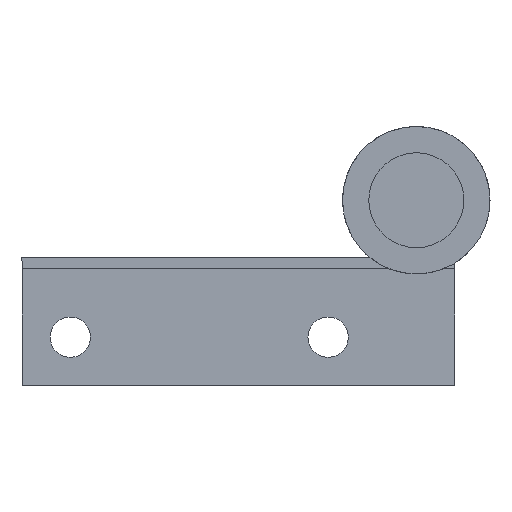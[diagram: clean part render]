
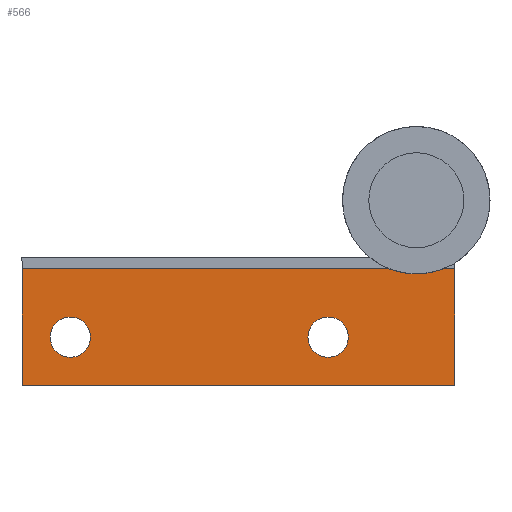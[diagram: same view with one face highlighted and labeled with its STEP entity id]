
A CAD part, front view. The second image highlights one B-rep face of the part: STEP entity #566.
In plain terms, the highlighted planar face has unit normal (0, -1, 0).
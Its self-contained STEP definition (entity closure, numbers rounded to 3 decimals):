
#5 = EDGE_CURVE ( 'NONE', #499, #500, #922, .T. ) ;
#17 = AXIS2_PLACEMENT_3D ( 'NONE', #124, #125, #126 ) ;
#33 = EDGE_CURVE ( 'NONE', #536, #529, #884, .T. ) ;
#35 = AXIS2_PLACEMENT_3D ( 'NONE', #254, #255, #256 ) ;
#49 = EDGE_CURVE ( 'NONE', #546, #527, #1043, .T. ) ;
#58 = AXIS2_PLACEMENT_3D ( 'NONE', #381, #389, #390 ) ;
#94 = AXIS2_PLACEMENT_3D ( 'NONE', #448, #465, #466 ) ;
#97 = AXIS2_PLACEMENT_3D ( 'NONE', #557, #108, #109 ) ;
#108 = DIRECTION ( 'NONE',  ( 0., 1., 0. ) ) ;
#109 = DIRECTION ( 'NONE',  ( 1., 0., 0. ) ) ;
#124 = CARTESIAN_POINT ( 'NONE',  ( -42.95, 533.2, -17. ) ) ;
#125 = DIRECTION ( 'NONE',  ( 0., 1., 0. ) ) ;
#126 = DIRECTION ( 'NONE',  ( 1., 0., 0. ) ) ;
#179 = CARTESIAN_POINT ( 'NONE',  ( 4.75, 533.2, -23. ) ) ;
#180 = CARTESIAN_POINT ( 'NONE',  ( 4.75, 533.2, -8.5 ) ) ;
#185 = CARTESIAN_POINT ( 'NONE',  ( -48.95, 533.2, -8.5 ) ) ;
#186 = CARTESIAN_POINT ( 'NONE',  ( -48.95, 533.2, -23. ) ) ;
#212 = CARTESIAN_POINT ( 'NONE',  ( -40.45, 533.2, -17. ) ) ;
#214 = CARTESIAN_POINT ( 'NONE',  ( -8.45, 533.2, -17. ) ) ;
#221 = CARTESIAN_POINT ( 'NONE',  ( -13.45, 533.2, -17. ) ) ;
#231 = CARTESIAN_POINT ( 'NONE',  ( -45.45, 533.2, -17. ) ) ;
#250 = PLANE ( 'NONE',  #35 ) ;
#254 = CARTESIAN_POINT ( 'NONE',  ( 9.15, 533.2, -23. ) ) ;
#255 = DIRECTION ( 'NONE',  ( 0., 1., 0. ) ) ;
#256 = DIRECTION ( 'NONE',  ( 1., 0., 0. ) ) ;
#368 = CARTESIAN_POINT ( 'NONE',  ( 4.75, 533.2, -23. ) ) ;
#369 = DIRECTION ( 'NONE',  ( 0., 0., -1. ) ) ;
#381 = CARTESIAN_POINT ( 'NONE',  ( -42.95, 533.2, -17. ) ) ;
#389 = DIRECTION ( 'NONE',  ( 0., 1., 0. ) ) ;
#390 = DIRECTION ( 'NONE',  ( 1., 0., 0. ) ) ;
#391 = CARTESIAN_POINT ( 'NONE',  ( 9.15, 533.2, -8.5 ) ) ;
#392 = DIRECTION ( 'NONE',  ( -1., 0., 0. ) ) ;
#448 = CARTESIAN_POINT ( 'NONE',  ( -10.95, 533.2, -17. ) ) ;
#465 = DIRECTION ( 'NONE',  ( 0., 1., 0. ) ) ;
#466 = DIRECTION ( 'NONE',  ( 1., 0., 0. ) ) ;
#467 = CARTESIAN_POINT ( 'NONE',  ( 9.15, 533.2, -23. ) ) ;
#468 = DIRECTION ( 'NONE',  ( -1., 0., 0. ) ) ;
#494 = DIRECTION ( 'NONE',  ( 0., 0., -1. ) ) ;
#495 = VERTEX_POINT ( 'NONE', #179 ) ;
#496 = VERTEX_POINT ( 'NONE', #180 ) ;
#499 = VERTEX_POINT ( 'NONE', #185 ) ;
#500 = VERTEX_POINT ( 'NONE', #186 ) ;
#527 = VERTEX_POINT ( 'NONE', #212 ) ;
#529 = VERTEX_POINT ( 'NONE', #214 ) ;
#536 = VERTEX_POINT ( 'NONE', #221 ) ;
#546 = VERTEX_POINT ( 'NONE', #231 ) ;
#551 = CARTESIAN_POINT ( 'NONE',  ( -48.95, 533.2, -23. ) ) ;
#557 = CARTESIAN_POINT ( 'NONE',  ( -10.95, 533.2, -17. ) ) ;
#566 = ADVANCED_FACE ( 'NONE', ( #666, #669, #667 ), #250, .F. ) ;
#602 = EDGE_CURVE ( 'NONE', #496, #495, #728, .T. ) ;
#610 = EDGE_CURVE ( 'NONE', #527, #546, #683, .T. ) ;
#611 = EDGE_CURVE ( 'NONE', #496, #499, #706, .T. ) ;
#644 = EDGE_CURVE ( 'NONE', #529, #536, #819, .T. ) ;
#645 = EDGE_CURVE ( 'NONE', #495, #500, #807, .T. ) ;
#666 = FACE_BOUND ( 'NONE', #925, .T. ) ;
#667 = FACE_OUTER_BOUND ( 'NONE', #1013, .T. ) ;
#669 = FACE_BOUND ( 'NONE', #1051, .T. ) ;
#671 = ORIENTED_EDGE ( 'NONE', *, *, #644, .T. ) ;
#683 = CIRCLE ( 'NONE', #58, 2.5 ) ;
#706 = LINE ( 'NONE', #391, #744 ) ;
#722 = ORIENTED_EDGE ( 'NONE', *, *, #49, .T. ) ;
#728 = LINE ( 'NONE', #368, #731 ) ;
#731 = VECTOR ( 'NONE', #369, 1000. ) ;
#744 = VECTOR ( 'NONE', #392, 1000. ) ;
#807 = LINE ( 'NONE', #467, #821 ) ;
#819 = CIRCLE ( 'NONE', #94, 2.5 ) ;
#821 = VECTOR ( 'NONE', #468, 1000. ) ;
#875 = ORIENTED_EDGE ( 'NONE', *, *, #33, .T. ) ;
#884 = CIRCLE ( 'NONE', #97, 2.5 ) ;
#886 = ORIENTED_EDGE ( 'NONE', *, *, #645, .F. ) ;
#888 = ORIENTED_EDGE ( 'NONE', *, *, #602, .F. ) ;
#916 = VECTOR ( 'NONE', #494, 1000. ) ;
#922 = LINE ( 'NONE', #551, #916 ) ;
#925 = EDGE_LOOP ( 'NONE', ( #875, #671 ) ) ;
#1006 = ORIENTED_EDGE ( 'NONE', *, *, #610, .T. ) ;
#1007 = ORIENTED_EDGE ( 'NONE', *, *, #611, .T. ) ;
#1008 = ORIENTED_EDGE ( 'NONE', *, *, #5, .T. ) ;
#1013 = EDGE_LOOP ( 'NONE', ( #1007, #1008, #886, #888 ) ) ;
#1043 = CIRCLE ( 'NONE', #17, 2.5 ) ;
#1051 = EDGE_LOOP ( 'NONE', ( #722, #1006 ) ) ;
